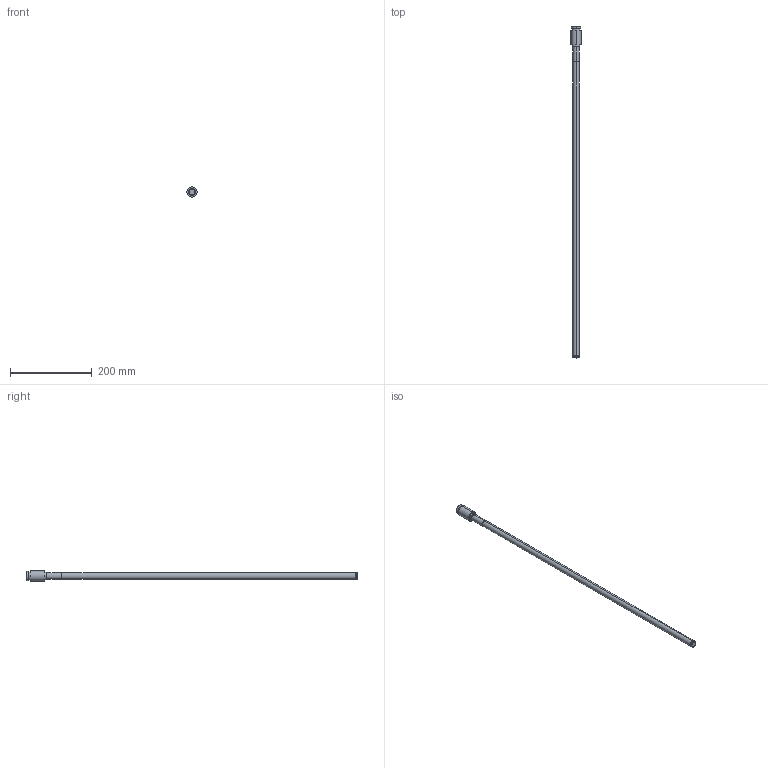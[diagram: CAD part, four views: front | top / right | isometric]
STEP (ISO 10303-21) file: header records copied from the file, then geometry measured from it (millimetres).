
FILE_DESCRIPTION (( 'STEP AP203' ), '1' );
FILE_NAME ('LT22E-R16-3LIO-EX-B1140.step', '2018-01-03T14:48:05', ( '' ), ( '' ), 'SwSTEP 2.0', 'SolidWorks 2015', '' );
FILE_SCHEMA (( 'CONFIG_CONTROL_DESIGN' ));
Length unit declared in the file: millimetre
Products named in the file (2): LT22E-R16-3LIO-EX-B1140
Bounding box: 25.4 x 812.8 x 25.4 mm (x, y, z)
Volume: 171788.1 mm3; surface area: 45113.4 mm2
Topology: 1 solids, 1 shells, 77 faces, 177 edges, 111 vertices
Faces by surface type: cylinder 41, plane 16, torus 12, cone 6, bspline 2
Entity records: 2431 total; most frequent: CARTESIAN_POINT 459, DIRECTION 434, ORIENTED_EDGE 350, AXIS2_PLACEMENT_3D 190, EDGE_CURVE 175, CIRCLE 113, VERTEX_POINT 111, EDGE_LOOP 88
